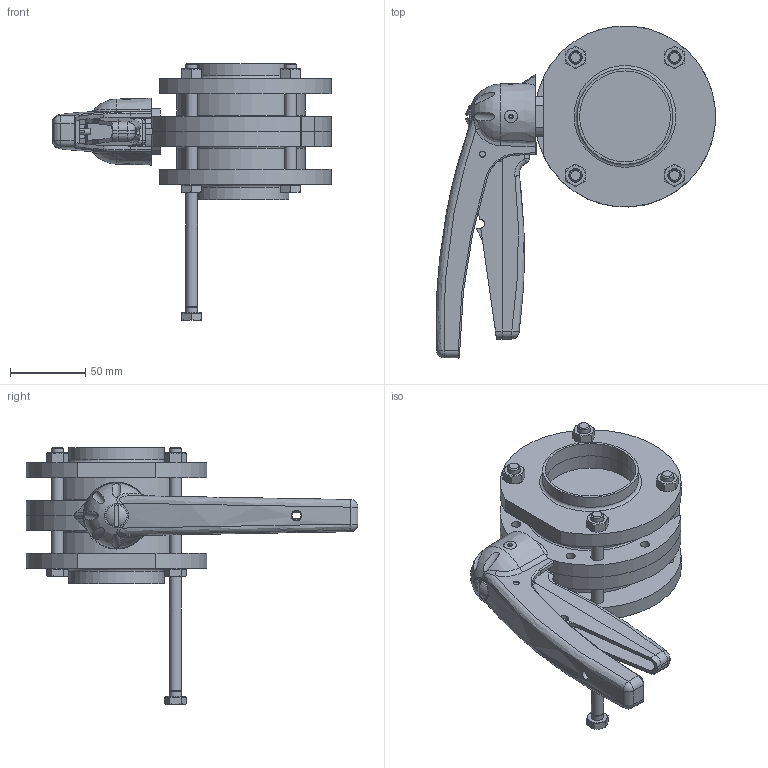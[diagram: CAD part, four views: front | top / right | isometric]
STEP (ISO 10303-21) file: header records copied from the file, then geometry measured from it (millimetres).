
FILE_DESCRIPTION(/* description */ ('VVF VALV.FARF.DN63.5X1.65 WAF4 316 HNBR LEVA 5POS.'),/* implementation_level */ '2;1');
FILE_NAME(/* name */ 'C:\_DED_PWS\BORZ-A\DB\B\EBA\BEBAD9212BHAA-00^SAGOMA.step',/* time_stamp */ '2018-09-10T14:25:35+02:00',/* author */ (''),/* organization */ (''),/* preprocessor_version */ 'ST-DEVELOPER v17',/* originating_system */ 'Autodesk Inventor 2018',/* authorisation */ '');
FILE_SCHEMA (('CONFIG_CONTROL_DESIGN'));
Length unit declared in the file: millimetre
Products named in the file (8): BEBAD9212BHAA; TWD031212BBA; TPM022212BBA; RBIAA.M08; RBAAA08X80-00_MIR1; RBIAA.M08-00_MIR1; RBAAA08X80; Maniglia-5-posizioni-nuova-versione finale 01-2008- 25 - - 65
Assembly tree (14 placements, depth 2):
  BEBAD9212BHAA
    TWD031212BBA  x2
    TPM022212BBA  x2
    RBAAA08X80  x3
    RBIAA.M08  x2
    RBAAA08X80-00_MIR1  x2
    RBIAA.M08-00_MIR1  x2
    Maniglia-5-posizioni-nuova-versione finale 01-2008- 25 - - 65
Bounding box: 184.95 x 219.95 x 170 mm (x, y, z)
Volume: 674889.5 mm3; surface area: 184525.7 mm2
Topology: 14 solids, 15 shells, 703 faces, 1797 edges, 1149 vertices
Faces by surface type: plane 318, cylinder 147, cone 126, bspline 81, sphere 18, torus 13
Full cylindrical faces by diameter (mm): 4 x3, 6 x2, 6.2 x12, 6.5 x1, 8 x14, 8.5 x12, 13 x6, 14.5 x1, 60.2 x2, 63.5 x2, 85 x2
Entity records: 26147 total; most frequent: CARTESIAN_POINT 12756, ORIENTED_EDGE 2802, DIRECTION 2496, EDGE_CURVE 1401, AXIS2_PLACEMENT_3D 937, VERTEX_POINT 896, LINE 622, VECTOR 622
